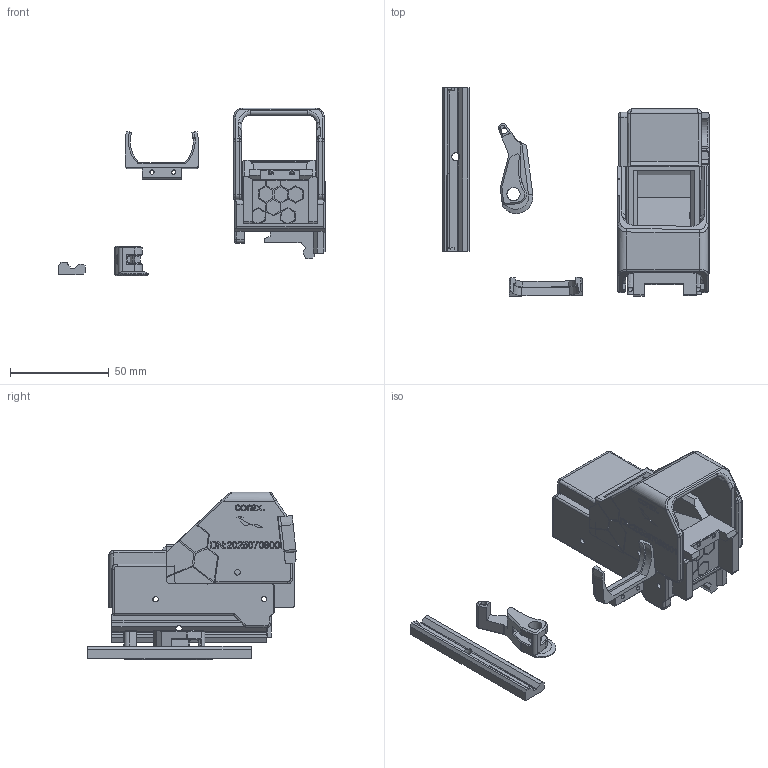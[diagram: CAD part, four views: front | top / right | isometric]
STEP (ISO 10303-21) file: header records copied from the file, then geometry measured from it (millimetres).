
FILE_DESCRIPTION(/* description */ (''),/* implementation_level */ '2;1');
FILE_NAME(/* name */ 'C:/Users/daixi/Desktop/s-n-14LL.stp',/* time_stamp */ '2025-07-16T05:50:06+08:00',/* author */ (''),/* organization */ (''),/* preprocessor_version */ 'ST-DEVELOPER v15.2',/* originating_system */ 'Autodesk Translator Framework v2.0.0.5431',/* authorisation */ '');
FILE_SCHEMA (('AUTOMOTIVE_DESIGN { 1 0 10303 214 3 1 1 }'));
Length unit declared in the file: centimetre
Products named in the file (1): s-n-13LL
Bounding box: 135.19 x 105.71 x 85 mm (x, y, z)
Volume: 106736.1 mm3; surface area: 59425.7 mm2
Topology: 6 solids, 7 shells, 1325 faces, 3663 edges, 2387 vertices
Faces by surface type: plane 794, bspline 342, cylinder 150, cone 27, torus 11, sphere 1
Full cylindrical faces by diameter (mm): 0.549 x1, 1.8 x3, 2.8 x15, 3 x1, 3.2 x1, 3.6 x2, 4 x1, 5.2 x1, 6 x2, 6.7 x1, 11.105 x1
Entity records: 46051 total; most frequent: CARTESIAN_POINT 14455, ORIENTED_EDGE 7242, DIRECTION 5251, EDGE_CURVE 3616, LINE 2525, VECTOR 2525, VERTEX_POINT 2374, EDGE_LOOP 1459
